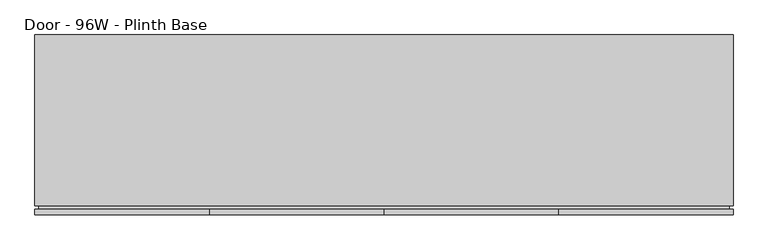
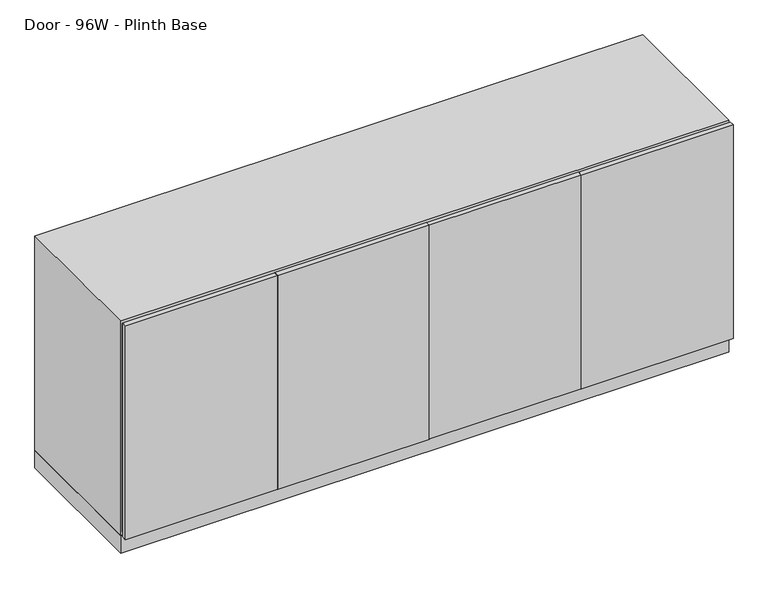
"""IFC4 building model written with IfcOpenShell, lengths in millimetres: furniture geometry, Steelcase Coalesse - Exponents - Storage - Credenza - 39H : Door - 96W - Plinth Base."""

from ifc_helpers import new_model, si_unit, point, frame, frame_2d, origin, origin_with_axes, place, context, project, spatial, polyline, circle_curve, trimmed, segment, composite_curve, outline, extrude, faceted_brep, source, transform, mapped, element, save


def door_96w_plinth_base_b20ff67c(model_context):
    return source(origin(), model_context, "Body", "SolidModel", [
        faceted_brep([(6.35, 31.75, 977.9), (6.35, 31.75, 95.25), (6.35, 622.3, 95.25), (6.35, 622.3, 977.9), (2432.05, 622.3, 95.25), (2432.05, 622.3, 977.9), (2432.05, 31.75, 95.25), (2432.05, 31.75, 977.9), (0.0, 31.75, 82.55), (2438.4, 31.75, 82.55), (2438.4, 31.75, 990.6), (0.0, 31.75, 990.6), (2438.4, 628.65, 82.55), (2438.4, 628.65, 990.6), (0.0, 628.65, 82.55), (0.0, 628.65, 990.6)], [[[0, 1, 2, 3]], [[3, 2, 4, 5]], [[5, 4, 6, 7]], [[8, 9, 10, 11], [7, 6, 1, 0]], [[10, 9, 12, 13]], [[13, 12, 14, 15]], [[15, 14, 8, 11]], [[7, 0, 3, 5]], [[10, 13, 15, 11]], [[1, 6, 4, 2]], [[12, 9, 8, 14]]]),
        extrude(outline(polyline([(977.9, 2425.7), (977.9, 12.7), (95.25, 12.7), (95.25, 2425.7), (977.9, 2425.7)]), holes=[polyline([(971.55, 2419.35), (101.6, 2419.35), (101.6, 19.05), (971.55, 19.05), (971.55, 2419.35)])]), frame((0.0, 19.05, 0.0), z_axis=(0.0, 1.0, 0.0), x_axis=(0.0, 0.0, 1.0)), (0.0, 0.0, 1.0), 31.75),
        extrude(outline(composite_curve([segment(trimmed(circle_curve(frame_2d((19.05, 593.5667033)), 6.35), [point((12.7, 593.5667033))], [point((25.4, 593.5667033))], False, "CARTESIAN"), True, "CONTINUOUS"), segment(trimmed(circle_curve(frame_2d((19.05, 593.5667033)), 6.35), [point((25.4, 593.5667033))], [point((12.7, 593.5667033))], False, "CARTESIAN"), True, "CONTINUOUS")], self_intersect=False)), origin_with_axes(), (0.0, 0.0, 1.0), 6.35),
        extrude(outline(composite_curve([segment(trimmed(circle_curve(frame_2d((19.05, 66.7867854)), 6.35), [point((12.7, 66.7867854))], [point((25.4, 66.7867854))], False, "CARTESIAN"), True, "CONTINUOUS"), segment(trimmed(circle_curve(frame_2d((19.05, 66.7867854)), 6.35), [point((25.4, 66.7867854))], [point((12.7, 66.7867854))], False, "CARTESIAN"), True, "CONTINUOUS")], self_intersect=False)), origin_with_axes(), (0.0, 0.0, 1.0), 6.35),
        extrude(outline(composite_curve([segment(trimmed(circle_curve(frame_2d((2419.35, 593.5667033)), 6.35), [point((2413.0, 593.5667033))], [point((2425.7, 593.5667033))], False, "CARTESIAN"), True, "CONTINUOUS"), segment(trimmed(circle_curve(frame_2d((2419.35, 593.5667033)), 6.35), [point((2425.7, 593.5667033))], [point((2413.0, 593.5667033))], False, "CARTESIAN"), True, "CONTINUOUS")], self_intersect=False)), origin_with_axes(), (0.0, 0.0, 1.0), 6.35),
        extrude(outline(composite_curve([segment(trimmed(circle_curve(frame_2d((2419.35, 66.7867854)), 6.35), [point((2413.0, 66.7867854))], [point((2425.7, 66.7867854))], False, "CARTESIAN"), True, "CONTINUOUS"), segment(trimmed(circle_curve(frame_2d((2419.35, 66.7867854)), 6.35), [point((2425.7, 66.7867854))], [point((2413.0, 66.7867854))], False, "CARTESIAN"), True, "CONTINUOUS")], self_intersect=False)), origin_with_axes(), (0.0, 0.0, 1.0), 6.35),
        extrude(outline(polyline([(2438.4, 19.05), (2438.4, 0.0), (1829.435, 0.0), (1829.435, 19.05), (2438.4, 19.05)])), frame((0.0, 0.0, 82.55), z_axis=(0.0, 0.0, 1.0), x_axis=(1.0, 0.0, 0.0)), (0.0, 0.0, 1.0), 908.05),
        extrude(outline(polyline([(1827.8348, 19.05), (1827.8348, 0.0), (1220.0128, 0.0), (1220.0128, 19.05), (1827.8348, 19.05)])), frame((0.0, 0.0, 82.55), z_axis=(0.0, 0.0, 1.0), x_axis=(1.0, 0.0, 0.0)), (0.0, 0.0, 1.0), 908.05),
        extrude(outline(polyline([(1218.4126, 19.05), (1218.4126, 0.0), (610.5652, 0.0), (610.5652, 19.05), (1218.4126, 19.05)])), frame((0.0, 0.0, 82.55), z_axis=(0.0, 0.0, 1.0), x_axis=(1.0, 0.0, 0.0)), (0.0, 0.0, 1.0), 908.05),
        extrude(outline(polyline([(608.965, 19.05), (608.965, 0.0), (0.0, 0.0), (0.0, 19.05), (608.965, 19.05)])), frame((0.0, 0.0, 82.55), z_axis=(0.0, 0.0, 1.0), x_axis=(1.0, 0.0, 0.0)), (0.0, 0.0, 1.0), 908.05),
        extrude(outline(polyline([(0.0, -19.05), (0.0, 0.0), (31.75, 0.0), (31.75, -19.05), (0.0, -19.05)])), frame((1828.8, 19.05, 101.6), z_axis=(2.938094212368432e-12, 0.0, 1.0), x_axis=(0.0, 1.0, 0.0)), (0.0, 0.0, 1.0), 869.95),
        extrude(outline(polyline([(0.0, -19.05), (0.0, 0.0), (31.75, 0.0), (31.75, -19.05), (0.0, -19.05)])), frame((1209.675, 19.05, 101.6), z_axis=(3.14415160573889e-12, 0.0, 1.0), x_axis=(0.0, 1.0, 0.0)), (0.0, 0.0, 1.0), 869.95),
        extrude(outline(polyline([(0.0, -19.05), (0.0, 0.0), (31.75, 0.0), (31.75, -19.05), (0.0, -19.05)])), frame((590.55, 19.05, 101.6), z_axis=(3.3644198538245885e-12, 0.0, 1.0), x_axis=(0.0, 1.0, 0.0)), (0.0, 0.0, 1.0), 869.95),
        extrude(outline(polyline([(1209.675, 609.6), (1228.725, 609.6), (1228.725, 50.8), (1209.675, 50.8), (1209.675, 609.6)])), frame((0.0, 0.0, 95.25), z_axis=(0.0, 0.0, 1.0), x_axis=(1.0, 0.0, 0.0)), (0.0, 0.0, 1.0), 882.65),
        extrude(outline(polyline([(1828.8, 609.6), (1847.85, 609.6), (1847.85, 50.8), (1828.8, 50.8), (1828.8, 609.6)])), frame((0.0, 0.0, 95.25), z_axis=(0.0, 0.0, 1.0), x_axis=(1.0, 0.0, 0.0)), (0.0, 0.0, 1.0), 882.65),
        extrude(outline(polyline([(1828.8, 50.8), (1228.725, 50.8), (1228.725, 609.6), (1828.8, 609.6), (1828.8, 50.8)])), frame((0.0, 0.0, 523.875), z_axis=(0.0, 0.0, 1.0), x_axis=(1.0, 0.0, 0.0)), (0.0, 0.0, 1.0), 19.05),
        extrude(outline(polyline([(1209.675, 50.8), (609.6, 50.8), (609.6, 609.6), (1209.675, 609.6), (1209.675, 50.8)])), frame((0.0, 0.0, 523.875), z_axis=(0.0, 0.0, 1.0), x_axis=(1.0, 0.0, 0.0)), (0.0, 0.0, 1.0), 19.05),
        extrude(outline(polyline([(2438.4, 628.65), (2438.4, 31.75), (0.0, 31.75), (0.0, 628.65), (2438.4, 628.65)]), holes=[polyline([(2419.35, 622.3), (19.05, 622.3), (19.05, 38.1), (2419.35, 38.1), (2419.35, 622.3)])]), frame((0.0, 0.0, 6.35), z_axis=(0.0, 0.0, 1.0), x_axis=(1.0, 0.0, 0.0)), (0.0, 0.0, 1.0), 73.4568),
        extrude(outline(polyline([(590.55, 609.6), (609.6, 609.6), (609.6, 50.8), (590.55, 50.8), (590.55, 609.6)])), frame((0.0, 0.0, 95.25), z_axis=(0.0, 0.0, 1.0), x_axis=(1.0, 0.0, 0.0)), (0.0, 0.0, 1.0), 882.65),
    ])


if __name__ == "__main__":
    model = new_model("IFC4")
    model_context = context("Model", 3, world=origin())
    ifc_project = project(units=[si_unit("LENGTHUNIT", "METRE", prefix="MILLI")], contexts=[model_context])
    site = spatial("IfcSite", under=ifc_project)
    building = spatial("IfcBuilding", under=site)
    placement = place(None, origin())
    door_96w_plinth_base_shape = door_96w_plinth_base_b20ff67c(model_context)
    element("IfcFurniture", 1, ObjectType="Steelcase Coalesse - Exponents - Storage - Credenza - 39H : Door - 96W - Plinth Base", at=placement, inside=building, context=model_context, shape_type="MappedRepresentation", body=[
        mapped(door_96w_plinth_base_shape, transform((0.0, 0.0, 0.0), x_axis=(1.0, 0.0, 0.0), y_axis=(0.0, 1.0, 0.0), z_axis=(0.0, 0.0, 1.0))),
    ])
    save(model, "model.ifc")
